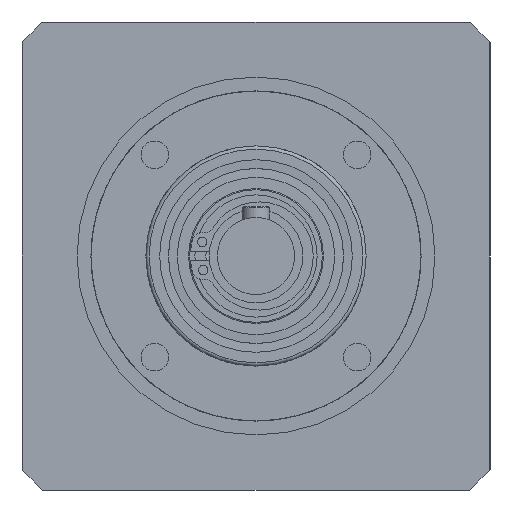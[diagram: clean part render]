
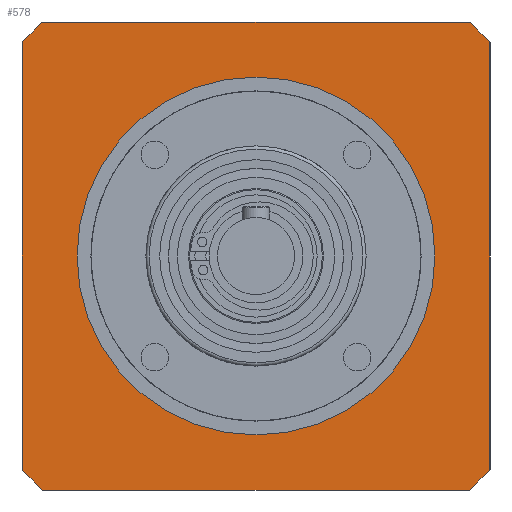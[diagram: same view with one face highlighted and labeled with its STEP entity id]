
A CAD part, left-side view. The second image highlights one B-rep face of the part: STEP entity #578.
In plain terms, the highlighted planar face has unit normal (-1, 0, 0).
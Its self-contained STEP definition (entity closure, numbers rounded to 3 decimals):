
#95=LINE('',#3854,#187);
#96=LINE('',#3858,#188);
#97=LINE('',#3862,#189);
#98=LINE('',#3866,#190);
#187=VECTOR('',#3081,1.);
#188=VECTOR('',#3084,1.);
#189=VECTOR('',#3087,1.);
#190=VECTOR('',#3090,1.);
#479=PLANE('',#2637);
#578=ADVANCED_FACE('',(#842,#843),#479,.T.);
#842=FACE_BOUND('',#1097,.T.);
#843=FACE_BOUND('',#1098,.T.);
#1097=EDGE_LOOP('',(#1451,#1452,#1453,#1454,#1455,#1456,#1457,#1458));
#1098=EDGE_LOOP('',(#1459));
#1451=ORIENTED_EDGE('',*,*,#2168,.F.);
#1452=ORIENTED_EDGE('',*,*,#2169,.T.);
#1453=ORIENTED_EDGE('',*,*,#2170,.F.);
#1454=ORIENTED_EDGE('',*,*,#2171,.T.);
#1455=ORIENTED_EDGE('',*,*,#2172,.F.);
#1456=ORIENTED_EDGE('',*,*,#2173,.T.);
#1457=ORIENTED_EDGE('',*,*,#2174,.F.);
#1458=ORIENTED_EDGE('',*,*,#2175,.T.);
#1459=ORIENTED_EDGE('',*,*,#2176,.T.);
#1937=VERTEX_POINT('',#3852);
#1938=VERTEX_POINT('',#3853);
#1939=VERTEX_POINT('',#3855);
#1940=VERTEX_POINT('',#3857);
#1941=VERTEX_POINT('',#3859);
#1942=VERTEX_POINT('',#3861);
#1943=VERTEX_POINT('',#3863);
#1944=VERTEX_POINT('',#3865);
#1945=VERTEX_POINT('',#3868);
#2168=EDGE_CURVE('',#1937,#1938,#2424,.T.);
#2169=EDGE_CURVE('',#1937,#1939,#95,.T.);
#2170=EDGE_CURVE('',#1940,#1939,#2425,.T.);
#2171=EDGE_CURVE('',#1940,#1941,#96,.T.);
#2172=EDGE_CURVE('',#1942,#1941,#2426,.T.);
#2173=EDGE_CURVE('',#1942,#1943,#97,.T.);
#2174=EDGE_CURVE('',#1944,#1943,#2427,.T.);
#2175=EDGE_CURVE('',#1944,#1938,#98,.T.);
#2176=EDGE_CURVE('',#1945,#1945,#2428,.T.);
#2424=CIRCLE('',#2632,57.5);
#2425=CIRCLE('',#2633,57.5);
#2426=CIRCLE('',#2634,57.5);
#2427=CIRCLE('',#2635,57.5);
#2428=CIRCLE('',#2636,25.);
#2632=AXIS2_PLACEMENT_3D('',#3851,#3079,#3080);
#2633=AXIS2_PLACEMENT_3D('',#3856,#3082,#3083);
#2634=AXIS2_PLACEMENT_3D('',#3860,#3085,#3086);
#2635=AXIS2_PLACEMENT_3D('',#3864,#3088,#3089);
#2636=AXIS2_PLACEMENT_3D('',#3867,#3091,#3092);
#2637=AXIS2_PLACEMENT_3D('',#3869,#3093,#3094);
#3079=DIRECTION('',(1.,0.,0.));
#3080=DIRECTION('',(0.,0.,-1.));
#3081=DIRECTION('',(0.,1.,0.));
#3082=DIRECTION('',(1.,0.,0.));
#3083=DIRECTION('',(0.,0.,-1.));
#3084=DIRECTION('',(0.,0.,-1.));
#3085=DIRECTION('',(1.,0.,0.));
#3086=DIRECTION('',(0.,0.,-1.));
#3087=DIRECTION('',(0.,-1.,0.));
#3088=DIRECTION('',(1.,0.,0.));
#3089=DIRECTION('',(0.,0.,-1.));
#3090=DIRECTION('',(0.,0.,1.));
#3091=DIRECTION('',(1.,0.,0.));
#3092=DIRECTION('',(0.,0.,-1.));
#3093=DIRECTION('',(-1.,0.,0.));
#3094=DIRECTION('',(0.,0.,1.));
#3851=CARTESIAN_POINT('',(0.,0.,0.));
#3852=CARTESIAN_POINT('',(0.,-38.73,42.5));
#3853=CARTESIAN_POINT('',(0.,-42.5,38.73));
#3854=CARTESIAN_POINT('',(0.,-38.73,42.5));
#3855=CARTESIAN_POINT('',(0.,38.73,42.5));
#3856=CARTESIAN_POINT('',(0.,0.,0.));
#3857=CARTESIAN_POINT('',(0.,42.5,38.73));
#3858=CARTESIAN_POINT('',(0.,42.5,38.73));
#3859=CARTESIAN_POINT('',(0.,42.5,-38.73));
#3860=CARTESIAN_POINT('',(0.,0.,0.));
#3861=CARTESIAN_POINT('',(0.,38.73,-42.5));
#3862=CARTESIAN_POINT('',(0.,38.73,-42.5));
#3863=CARTESIAN_POINT('',(0.,-38.73,-42.5));
#3864=CARTESIAN_POINT('',(0.,0.,0.));
#3865=CARTESIAN_POINT('',(0.,-42.5,-38.73));
#3866=CARTESIAN_POINT('',(0.,-42.5,-38.73));
#3867=CARTESIAN_POINT('',(0.,0.,0.));
#3868=CARTESIAN_POINT('',(0.,0.,-25.));
#3869=CARTESIAN_POINT('',(0.,0.,0.));
